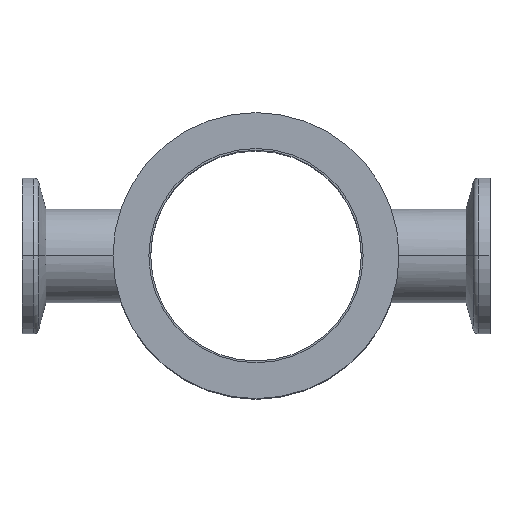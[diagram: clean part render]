
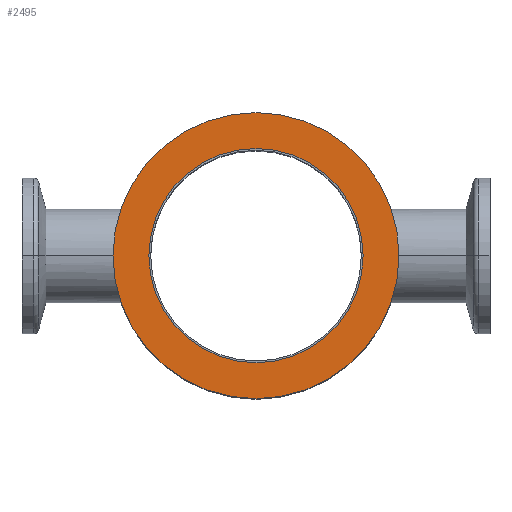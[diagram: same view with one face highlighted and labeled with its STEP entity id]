
A CAD part, top view. The second image highlights one B-rep face of the part: STEP entity #2495.
In plain terms, the highlighted planar face has unit normal (0, 0, 1).
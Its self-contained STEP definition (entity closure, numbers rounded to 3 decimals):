
#124 = ORIENTED_EDGE ( 'NONE', *, *, #1872, .T. ) ;
#207 = AXIS2_PLACEMENT_3D ( 'NONE', #2599, #1434, #2078 ) ;
#217 = VERTEX_POINT ( 'NONE', #1996 ) ;
#353 = AXIS2_PLACEMENT_3D ( 'NONE', #2008, #835, #1775 ) ;
#419 = EDGE_CURVE ( 'NONE', #832, #698, #628, .T. ) ;
#436 = AXIS2_PLACEMENT_3D ( 'NONE', #594, #2237, #1956 ) ;
#446 = CIRCLE ( 'NONE', #207, 27.5 ) ;
#498 = FACE_BOUND ( 'NONE', #1279, .T. ) ;
#594 = CARTESIAN_POINT ( 'NONE',  ( 0., 0., 0. ) ) ;
#628 = CIRCLE ( 'NONE', #2292, 27.5 ) ;
#698 = VERTEX_POINT ( 'NONE', #2806 ) ;
#820 = EDGE_CURVE ( 'NONE', #2694, #217, #1558, .T. ) ;
#832 = VERTEX_POINT ( 'NONE', #2897 ) ;
#835 = DIRECTION ( 'NONE',  ( 0., 0., 1. ) ) ;
#1031 = CARTESIAN_POINT ( 'NONE',  ( 0., 27.5, 0. ) ) ;
#1035 = EDGE_LOOP ( 'NONE', ( #1198, #124 ) ) ;
#1071 = DIRECTION ( 'NONE',  ( 1., 0., 0. ) ) ;
#1198 = ORIENTED_EDGE ( 'NONE', *, *, #419, .T. ) ;
#1279 = EDGE_LOOP ( 'NONE', ( #2592, #2957 ) ) ;
#1304 = EDGE_CURVE ( 'NONE', #217, #2694, #2060, .T. ) ;
#1416 = DIRECTION ( 'NONE',  ( 0., 0., 1. ) ) ;
#1428 = AXIS2_PLACEMENT_3D ( 'NONE', #1031, #1416, #1921 ) ;
#1434 = DIRECTION ( 'NONE',  ( 0., 0., 1. ) ) ;
#1436 = PLANE ( 'NONE',  #1428 ) ;
#1558 = CIRCLE ( 'NONE', #436, 20.6 ) ;
#1665 = FACE_OUTER_BOUND ( 'NONE', #1035, .T. ) ;
#1726 = CARTESIAN_POINT ( 'NONE',  ( -20.6, 0., 0. ) ) ;
#1754 = DIRECTION ( 'NONE',  ( 0., 0., 1. ) ) ;
#1775 = DIRECTION ( 'NONE',  ( 1., 0., 0. ) ) ;
#1872 = EDGE_CURVE ( 'NONE', #698, #832, #446, .T. ) ;
#1921 = DIRECTION ( 'NONE',  ( 1., 0., 0. ) ) ;
#1956 = DIRECTION ( 'NONE',  ( 1., 0., 0. ) ) ;
#1996 = CARTESIAN_POINT ( 'NONE',  ( 20.6, 0., 0. ) ) ;
#2008 = CARTESIAN_POINT ( 'NONE',  ( 0., 0., 0. ) ) ;
#2060 = CIRCLE ( 'NONE', #353, 20.6 ) ;
#2078 = DIRECTION ( 'NONE',  ( 1., 0., 0. ) ) ;
#2181 = CARTESIAN_POINT ( 'NONE',  ( 0., 0., 0. ) ) ;
#2237 = DIRECTION ( 'NONE',  ( 0., 0., 1. ) ) ;
#2292 = AXIS2_PLACEMENT_3D ( 'NONE', #2181, #1754, #1071 ) ;
#2495 = ADVANCED_FACE ( 'NONE', ( #1665, #498 ), #1436, .T. ) ;
#2592 = ORIENTED_EDGE ( 'NONE', *, *, #1304, .F. ) ;
#2599 = CARTESIAN_POINT ( 'NONE',  ( 0., 0., 0. ) ) ;
#2694 = VERTEX_POINT ( 'NONE', #1726 ) ;
#2806 = CARTESIAN_POINT ( 'NONE',  ( -27.5, 0., 0. ) ) ;
#2897 = CARTESIAN_POINT ( 'NONE',  ( 27.5, 0., 0. ) ) ;
#2957 = ORIENTED_EDGE ( 'NONE', *, *, #820, .F. ) ;
